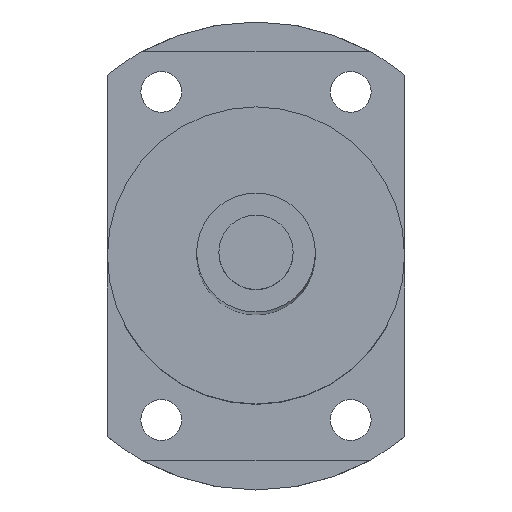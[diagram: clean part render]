
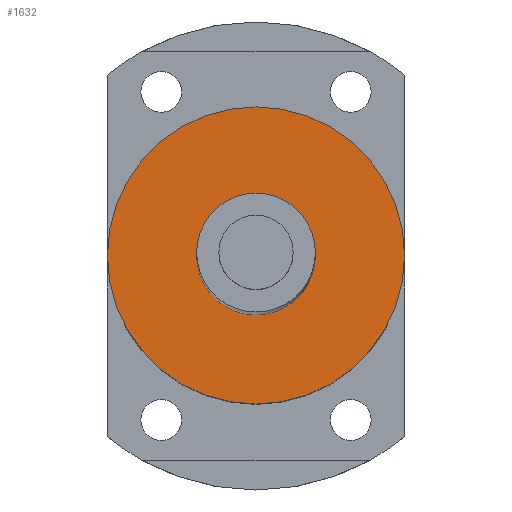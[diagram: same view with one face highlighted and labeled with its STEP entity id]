
A CAD part, top view. The second image highlights one B-rep face of the part: STEP entity #1632.
In plain terms, the highlighted planar face has unit normal (0, 0, 1).
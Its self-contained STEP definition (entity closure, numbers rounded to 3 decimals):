
#503=CARTESIAN_POINT('',(0.,0.,325.5));
#504=DIRECTION('',(0.,0.,1.));
#505=DIRECTION('',(1.,0.,0.));
#506=AXIS2_PLACEMENT_3D('',#503,#504,#505);
#508=CARTESIAN_POINT('',(0.,0.,325.5));
#509=DIRECTION('',(0.,0.,1.));
#510=DIRECTION('',(-1.,0.,0.));
#511=AXIS2_PLACEMENT_3D('',#508,#509,#510);
#513=CARTESIAN_POINT('',(0.,0.,325.5));
#514=DIRECTION('',(0.,0.,1.));
#515=DIRECTION('',(1.,0.,0.));
#516=AXIS2_PLACEMENT_3D('',#513,#514,#515);
#518=CARTESIAN_POINT('',(0.,0.,325.5));
#519=DIRECTION('',(0.,0.,1.));
#520=DIRECTION('',(-1.,0.,0.));
#521=AXIS2_PLACEMENT_3D('',#518,#519,#520);
#757=CARTESIAN_POINT('',(20.,0.,325.5));
#758=CARTESIAN_POINT('',(-20.,0.,325.5));
#759=VERTEX_POINT('',#757);
#760=VERTEX_POINT('',#758);
#769=CARTESIAN_POINT('',(8.,0.,325.5));
#770=CARTESIAN_POINT('',(-8.,0.,325.5));
#771=VERTEX_POINT('',#769);
#772=VERTEX_POINT('',#770);
#1617=CARTESIAN_POINT('',(0.,0.,325.5));
#1618=DIRECTION('',(0.,0.,1.));
#1619=DIRECTION('',(1.,0.,0.));
#1620=AXIS2_PLACEMENT_3D('',#1617,#1618,#1619);
#1621=PLANE('',#1620);
#1622=ORIENTED_EDGE('',*,*,#1597,.F.);
#1623=ORIENTED_EDGE('',*,*,#1611,.F.);
#1624=EDGE_LOOP('',(#1622,#1623));
#1625=FACE_OUTER_BOUND('',#1624,.F.);
#1627=ORIENTED_EDGE('',*,*,#1626,.T.);
#1629=ORIENTED_EDGE('',*,*,#1628,.T.);
#1630=EDGE_LOOP('',(#1627,#1629));
#1631=FACE_BOUND('',#1630,.F.);
#1632=ADVANCED_FACE('',(#1625,#1631),#1621,.T.);
#507=CIRCLE('',#506,20.);
#512=CIRCLE('',#511,20.);
#517=CIRCLE('',#516,8.);
#522=CIRCLE('',#521,8.);
#1597=EDGE_CURVE('',#759,#760,#507,.T.);
#1611=EDGE_CURVE('',#760,#759,#512,.T.);
#1626=EDGE_CURVE('',#771,#772,#517,.T.);
#1628=EDGE_CURVE('',#772,#771,#522,.T.);
